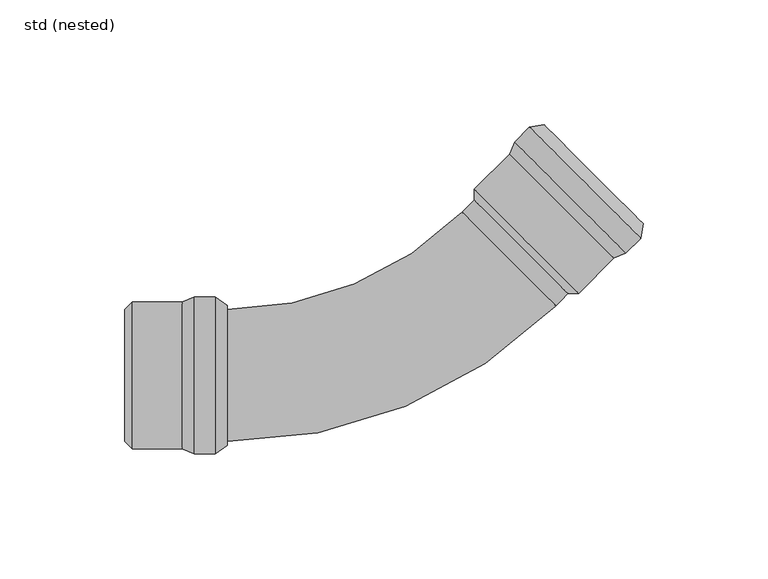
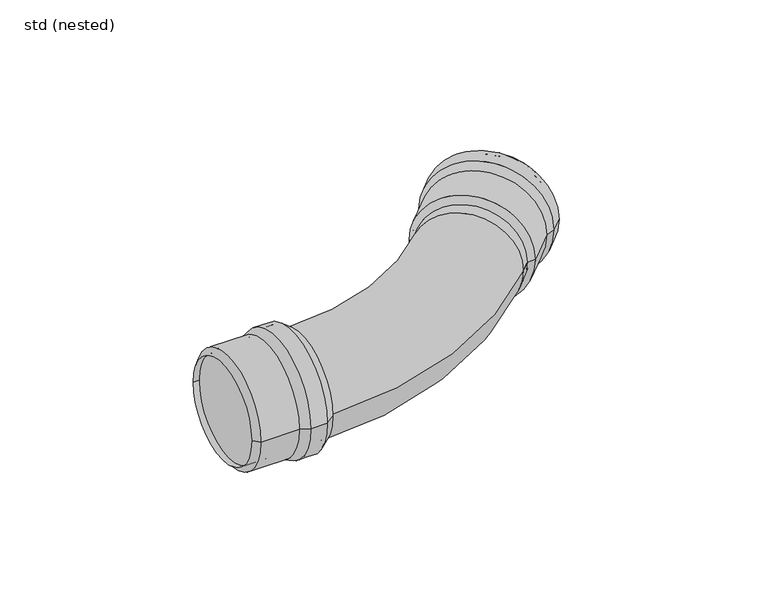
"""IFC4 building model written with IfcOpenShell, lengths in millimetres: pipe fitting geometry, ZZZ_do not use_PIF_ST_UN_GM-X pipe bend_ACO : std (nested)."""

from ifc_helpers import new_model, si_unit, point, frame, origin, place, context, project, spatial, polyline, circle_curve, ellipse_curve, trimmed, source, transform, mapped, element, save
from ifc_brep_helpers import plane_surface, cylinder_surface, revolved_surface, advanced_brep


def std_nested_28cbd34d(model_context):
    return source(origin(), model_context, "Body", "AdvancedBrep", [
        advanced_brep(
        [(-79.2, -31.5, 0.0), (-79.2, 31.5, 0.0), (-70.8, 31.5, 0.0), (-70.8, -31.5, 0.0), (-84.0, -29.5, 0.0), (-84.0, 29.5, 0.0), (-66.0, 28.0, 0.0), (-66.0, -28.0, 0.0), (-104.0, -29.5, 0.0), (-104.0, 29.5, 0.0), (-107.0, -26.5, 0.0), (-107.0, 26.5, 0.0), (-104.0, -26.5, 0.0), (-104.0, 26.5, 0.0), (-83.7, -28.0, 0.0), (-83.7, 28.0, 0.0), (-104.0, 28.0, 0.0), (-104.0, -28.0, 0.0), (-78.9, -30.0, 0.0), (-78.9, 30.0, 0.0), (-71.2888023, -30.0, 0.0), (-71.2888023, 30.0, 0.0), (-66.8837582, -26.7879887, 0.0), (-66.8837582, 26.7879887, 0.0)],
        [
            (0, 1, circle_curve(frame((-79.2, 0.0, 0.0), z_axis=(1.0, 0.0, 0.0), x_axis=(0.0, 1.0, 0.0)), 31.5)),
            (1, 2),
            (2, 3, circle_curve(frame((-70.8, 0.0, 0.0), z_axis=(-1.0, 0.0, 0.0), x_axis=(0.0, 1.0, 0.0)), 31.5)),
            (3, 0),
            (1, 0, circle_curve(frame((-79.2, 0.0, 0.0), z_axis=(1.0, 0.0, 0.0), x_axis=(0.0, 1.0, 0.0)), 31.5)),
            (3, 2, circle_curve(frame((-70.8, 0.0, 0.0), z_axis=(-1.0, 0.0, 0.0), x_axis=(0.0, 1.0, 0.0)), 31.5)),
            (4, 5, circle_curve(frame((-84.0, 0.0, 0.0), z_axis=(1.0, 0.0, 0.0), x_axis=(0.0, 1.0, 0.0)), 29.5)),
            (5, 1),
            (0, 4),
            (5, 4, circle_curve(frame((-84.0, 0.0, 0.0), z_axis=(1.0, 0.0, 0.0), x_axis=(0.0, 1.0, 0.0)), 29.5)),
            (2, 6),
            (6, 7, circle_curve(frame((-66.0, 0.0, 0.0), z_axis=(-1.0, 0.0, 0.0), x_axis=(0.0, 1.0, 0.0)), 28.0)),
            (7, 3),
            (7, 6, circle_curve(frame((-66.0, 0.0, 0.0), z_axis=(-1.0, 0.0, 0.0), x_axis=(0.0, 1.0, 0.0)), 28.0)),
            (8, 9, circle_curve(frame((-104.0, 0.0, 0.0), z_axis=(1.0, 0.0, 0.0), x_axis=(0.0, 1.0, 0.0)), 29.5)),
            (9, 5),
            (4, 8),
            (9, 8, circle_curve(frame((-104.0, 0.0, 0.0), z_axis=(1.0, 0.0, 0.0), x_axis=(0.0, 1.0, 0.0)), 29.5)),
            (10, 11, circle_curve(frame((-107.0, 0.0, 0.0), z_axis=(1.0, 0.0, 0.0), x_axis=(0.0, 1.0, 0.0)), 26.5)),
            (11, 9),
            (8, 10),
            (11, 10, circle_curve(frame((-107.0, 0.0, 0.0), z_axis=(1.0, 0.0, 0.0), x_axis=(0.0, 1.0, 0.0)), 26.5)),
            (12, 13, circle_curve(frame((-104.0, 0.0, 0.0), z_axis=(1.0, 0.0, 0.0), x_axis=(0.0, 1.0, 0.0)), 26.5)),
            (13, 11),
            (10, 12),
            (13, 12, circle_curve(frame((-104.0, 0.0, 0.0), z_axis=(1.0, 0.0, 0.0), x_axis=(0.0, 1.0, 0.0)), 26.5)),
            (14, 15, circle_curve(frame((-83.7, 0.0, 0.0), z_axis=(1.0, 0.0, 0.0), x_axis=(0.0, 1.0, 0.0)), 28.0)),
            (15, 16),
            (16, 17, circle_curve(frame((-104.0, 0.0, 0.0), z_axis=(-1.0, 0.0, 0.0), x_axis=(0.0, 1.0, 0.0)), 28.0)),
            (17, 14),
            (15, 14, circle_curve(frame((-83.7, 0.0, 0.0), z_axis=(1.0, 0.0, 0.0), x_axis=(0.0, 1.0, 0.0)), 28.0)),
            (17, 16, circle_curve(frame((-104.0, 0.0, 0.0), z_axis=(-1.0, 0.0, 0.0), x_axis=(0.0, 1.0, 0.0)), 28.0)),
            (18, 19, circle_curve(frame((-78.9, 0.0, 0.0), z_axis=(1.0, 0.0, 0.0), x_axis=(0.0, 1.0, 0.0)), 30.0)),
            (19, 15),
            (14, 18),
            (19, 18, circle_curve(frame((-78.9, 0.0, 0.0), z_axis=(1.0, 0.0, 0.0), x_axis=(0.0, 1.0, 0.0)), 30.0)),
            (20, 21, circle_curve(frame((-71.2888023, 0.0, 0.0), z_axis=(1.0, 0.0, 0.0), x_axis=(0.0, 1.0, 0.0)), 30.0)),
            (21, 19),
            (18, 20),
            (21, 20, circle_curve(frame((-71.2888023, 0.0, 0.0), z_axis=(1.0, 0.0, 0.0), x_axis=(0.0, 1.0, 0.0)), 30.0)),
            (22, 23, circle_curve(frame((-66.8837582, 0.0, 0.0), z_axis=(1.0, 0.0, 0.0), x_axis=(0.0, 1.0, 0.0)), 26.7879887)),
            (23, 21),
            (20, 22),
            (23, 22, circle_curve(frame((-66.8837582, 0.0, 0.0), z_axis=(1.0, 0.0, 0.0), x_axis=(0.0, 1.0, 0.0)), 26.7879887)),
            (6, 23),
            (22, 7),
            (16, 13),
            (12, 17),
        ],
        [
            cylinder_surface(frame((-69.3555883, 0.0, 0.0), z_axis=(-1.0, 0.0, 0.0), x_axis=(0.0, 1.0, 0.0)), 31.5),
            revolved_surface(polyline([(-79.2, 31.5, 0.0), (-84.0, 29.5, 0.0)]), (-69.3555883, 0.0, 0.0), (-1.0, 0.0, 0.0)),
            revolved_surface(polyline([(-66.0, 28.0, 0.0), (-70.8, 31.5, 0.0)]), (-69.3555883, 0.0, 0.0), (-1.0, 0.0, 0.0)),
            cylinder_surface(frame((-69.3555883, 0.0, 0.0), z_axis=(-1.0, 0.0, 0.0), x_axis=(0.0, 1.0, 0.0)), 29.5),
            revolved_surface(polyline([(-104.0, 29.5, 0.0), (-107.0, 26.5, 0.0)]), (-69.3555883, 0.0, 0.0), (-1.0, 0.0, 0.0)),
            revolved_surface(polyline([(-107.0, 26.5, 0.0), (-104.0, 26.5, 0.0)]), (-69.3555883, 0.0, 0.0), (-1.0, 0.0, 0.0)),
            revolved_surface(polyline([(-104.0, 28.0, 0.0), (-83.7, 28.0, 0.0)]), (-69.3555883, 0.0, 0.0), (-1.0, 0.0, 0.0)),
            revolved_surface(polyline([(-83.7, 28.0, 0.0), (-78.9, 30.0, 0.0)]), (-69.3555883, 0.0, 0.0), (-1.0, 0.0, 0.0)),
            revolved_surface(polyline([(-78.9, 30.0, 0.0), (-71.2888023, 30.0, 0.0)]), (-69.3555883, 0.0, 0.0), (-1.0, 0.0, 0.0)),
            revolved_surface(polyline([(-71.2888023, 30.0, 0.0), (-66.8837582, 26.7879887, 0.0)]), (-69.3555883, 0.0, 0.0), (-1.0, 0.0, 0.0)),
            revolved_surface(polyline([(-66.8837582, 26.7879887, 0.0), (-66.0, 28.0, 0.0)]), (-69.3555883, 0.0, 0.0), (-1.0, 0.0, 0.0)),
            plane_surface(frame((-104.0, 0.0, 0.0), z_axis=(1.0, 0.0, 0.0), x_axis=(0.0, 1.0, 0.0))),
        ],
        [
            (0, [[1, 2, 3, 4]]),
            (0, [[5, -4, 6, -2]]),
            (1, [[7, 8, -1, 9]]),
            (1, [[10, -9, -5, -8]]),
            (2, [[-3, 11, 12, 13]]),
            (2, [[-6, -13, 14, -11]]),
            (3, [[15, 16, -7, 17]]),
            (3, [[18, -17, -10, -16]]),
            (4, [[19, 20, -15, 21]]),
            (4, [[22, -21, -18, -20]]),
            (5, [[23, 24, -19, 25]]),
            (5, [[26, -25, -22, -24]]),
            (6, [[27, 28, 29, 30]]),
            (6, [[31, -30, 32, -28]]),
            (7, [[33, 34, -27, 35]]),
            (7, [[36, -35, -31, -34]]),
            (8, [[37, 38, -33, 39]]),
            (8, [[40, -39, -36, -38]]),
            (9, [[41, 42, -37, 43]]),
            (9, [[44, -43, -40, -42]]),
            (10, [[-12, 45, -41, 46]]),
            (10, [[-14, -46, -44, -45]]),
            (11, [[-29, 47, -23, 48]]),
            (11, [[-32, -48, -26, -47]]),
        ],
    ),
        advanced_brep(
        [(93.5481556, 49.0064546, 0.0), (48.9985452, 93.5522986, 0.0), (54.9379911, 99.4922466, 0.0), (99.4876014, 54.9464026, 0.0), (88.7399132, 47.0263523, 0.0), (47.0188495, 88.7438888, 0.0), (60.8069385, 100.4117335, 0.0), (100.4065921, 60.8154278, 0.0), (74.5983754, 32.8836189, 0.0), (32.8773117, 74.6011553, 0.0), (70.3557347, 32.8834395, 0.0), (32.8774911, 70.3585146, 0.0), (72.4769654, 35.0048495, 0.0), (34.9987217, 72.4799246, 0.0), (87.8913312, 48.2991087, 0.0), (48.2916776, 87.8954144, 0.0), (33.9380167, 73.54054, 0.0), (73.5376704, 33.9442342, 0.0), (92.6995736, 50.2792109, 0.0), (50.2713733, 92.7038242, 0.0), (98.0812756, 55.6613679, 0.0), (55.6530753, 98.0859812, 0.0), (98.9246495, 61.0474751, 0.0), (61.0391111, 98.9298105, 0.0)],
        [
            (0, 1, circle_curve(frame((71.2733504, 71.2793766, 0.0), z_axis=(0.7070768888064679, 0.7071366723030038, 0.0), x_axis=(-0.7071366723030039, 0.707076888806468, 0.0)), 31.5)),
            (1, 2),
            (2, 3, circle_curve(frame((77.2127963, 77.2193246, 0.0), z_axis=(-0.7070768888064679, -0.7071366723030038, 0.0), x_axis=(-0.7071366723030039, 0.707076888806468, 0.0)), 31.5)),
            (3, 0),
            (1, 0, circle_curve(frame((71.2733504, 71.2793766, 0.0), z_axis=(0.7070768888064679, 0.7071366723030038, 0.0), x_axis=(-0.7071366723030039, 0.707076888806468, 0.0)), 31.5)),
            (3, 2, circle_curve(frame((77.2127963, 77.2193246, 0.0), z_axis=(-0.7070768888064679, -0.7071366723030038, 0.0), x_axis=(-0.7071366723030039, 0.707076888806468, 0.0)), 31.5)),
            (4, 5, circle_curve(frame((67.8793813, 67.8851205, 0.0), z_axis=(0.7070768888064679, 0.7071366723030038, 0.0), x_axis=(-0.7071366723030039, 0.707076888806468, 0.0)), 29.5)),
            (5, 1),
            (0, 4),
            (5, 4, circle_curve(frame((67.8793813, 67.8851205, 0.0), z_axis=(0.7070768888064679, 0.7071366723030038, 0.0), x_axis=(-0.7071366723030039, 0.707076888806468, 0.0)), 29.5)),
            (2, 6),
            (6, 7, circle_curve(frame((80.6067653, 80.6135806, 0.0), z_axis=(-0.7070768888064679, -0.7071366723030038, 0.0), x_axis=(-0.7071366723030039, 0.707076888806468, 0.0)), 28.0)),
            (7, 3),
            (7, 6, circle_curve(frame((80.6067653, 80.6135806, 0.0), z_axis=(-0.7070768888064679, -0.7071366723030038, 0.0), x_axis=(-0.7071366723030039, 0.707076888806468, 0.0)), 28.0)),
            (8, 9, circle_curve(frame((53.7378435, 53.7423871, 0.0), z_axis=(0.7070768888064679, 0.7071366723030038, 0.0), x_axis=(-0.7071366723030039, 0.707076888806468, 0.0)), 29.5)),
            (9, 5),
            (4, 8),
            (9, 8, circle_curve(frame((53.7378435, 53.7423871, 0.0), z_axis=(0.7070768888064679, 0.7071366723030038, 0.0), x_axis=(-0.7071366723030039, 0.707076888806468, 0.0)), 29.5)),
            (10, 11, circle_curve(frame((51.6166129, 51.6209771, 0.0), z_axis=(0.7070768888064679, 0.7071366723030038, 0.0), x_axis=(-0.7071366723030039, 0.707076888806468, 0.0)), 26.5)),
            (11, 9),
            (8, 10),
            (11, 10, circle_curve(frame((51.6166129, 51.6209771, 0.0), z_axis=(0.7070768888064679, 0.7071366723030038, 0.0), x_axis=(-0.7071366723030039, 0.707076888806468, 0.0)), 26.5)),
            (12, 13, circle_curve(frame((53.7378435, 53.7423871, 0.0), z_axis=(0.7070768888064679, 0.7071366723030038, 0.0), x_axis=(-0.7071366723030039, 0.707076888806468, 0.0)), 26.5)),
            (13, 11),
            (10, 12),
            (13, 12, circle_curve(frame((53.7378435, 53.7423871, 0.0), z_axis=(0.7070768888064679, 0.7071366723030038, 0.0), x_axis=(-0.7071366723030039, 0.707076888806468, 0.0)), 26.5)),
            (14, 15, circle_curve(frame((68.0915044, 68.0972615, 0.0), z_axis=(0.7070768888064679, 0.7071366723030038, 0.0), x_axis=(-0.7071366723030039, 0.707076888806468, 0.0)), 28.0)),
            (15, 16),
            (16, 17, circle_curve(frame((53.7378435, 53.7423871, 0.0), z_axis=(-0.7070768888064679, -0.7071366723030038, 0.0), x_axis=(-0.7071366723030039, 0.707076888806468, 0.0)), 28.0)),
            (17, 14),
            (15, 14, circle_curve(frame((68.0915044, 68.0972615, 0.0), z_axis=(0.7070768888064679, 0.7071366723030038, 0.0), x_axis=(-0.7071366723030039, 0.707076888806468, 0.0)), 28.0)),
            (17, 16, circle_curve(frame((53.7378435, 53.7423871, 0.0), z_axis=(-0.7070768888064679, -0.7071366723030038, 0.0), x_axis=(-0.7071366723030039, 0.707076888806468, 0.0)), 28.0)),
            (18, 19, circle_curve(frame((71.4854735, 71.4915176, 0.0), z_axis=(0.7070768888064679, 0.7071366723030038, 0.0), x_axis=(-0.7071366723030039, 0.707076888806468, 0.0)), 30.0)),
            (19, 15),
            (14, 18),
            (19, 18, circle_curve(frame((71.4854735, 71.4915176, 0.0), z_axis=(0.7070768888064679, 0.7071366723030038, 0.0), x_axis=(-0.7071366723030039, 0.707076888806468, 0.0)), 30.0)),
            (20, 21, circle_curve(frame((76.8671754, 76.8736746, 0.0), z_axis=(0.7070768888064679, 0.7071366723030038, 0.0), x_axis=(-0.7071366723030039, 0.707076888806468, 0.0)), 30.0)),
            (21, 19),
            (18, 20),
            (21, 20, circle_curve(frame((76.8671754, 76.8736746, 0.0), z_axis=(0.7070768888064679, 0.7071366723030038, 0.0), x_axis=(-0.7071366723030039, 0.707076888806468, 0.0)), 30.0)),
            (22, 23, circle_curve(frame((79.9818803, 79.9886428, 0.0), z_axis=(0.7070768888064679, 0.7071366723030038, 0.0), x_axis=(-0.7071366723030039, 0.707076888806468, 0.0)), 26.7879887)),
            (23, 21),
            (20, 22),
            (23, 22, circle_curve(frame((79.9818803, 79.9886428, 0.0), z_axis=(0.7070768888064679, 0.7071366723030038, 0.0), x_axis=(-0.7071366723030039, 0.707076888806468, 0.0)), 26.7879887)),
            (6, 23),
            (22, 7),
            (16, 13),
            (12, 17),
        ],
        [
            cylinder_surface(frame((78.2341064, 78.2407211, 0.0), z_axis=(-0.707076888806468, -0.7071366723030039, 0.0), x_axis=(-0.7071366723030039, 0.707076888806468, 0.0)), 31.5),
            revolved_surface(polyline([(48.9985452, 93.5522986, 0.0), (47.0188495, 88.7438888, 0.0)]), (78.2341064, 78.2407211, 0.0), (-0.707076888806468, -0.7071366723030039, 0.0)),
            revolved_surface(polyline([(60.8069385, 100.4117335, 0.0), (54.9379911, 99.4922466, 0.0)]), (78.2341064, 78.2407211, 0.0), (-0.707076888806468, -0.7071366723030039, 0.0)),
            cylinder_surface(frame((78.2341064, 78.2407211, 0.0), z_axis=(-0.707076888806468, -0.7071366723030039, 0.0), x_axis=(-0.7071366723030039, 0.707076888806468, 0.0)), 29.5),
            revolved_surface(polyline([(32.8773117, 74.6011553, 0.0), (32.8774911, 70.3585146, 0.0)]), (78.2341064, 78.2407211, 0.0), (-0.707076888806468, -0.7071366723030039, 0.0)),
            revolved_surface(polyline([(32.87749105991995, 70.35851461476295, 0.0), (34.99872173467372, 72.47992464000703, 0.0)]), (78.2341064, 78.2407211, 0.0), (-0.707076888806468, -0.7071366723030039, 0.0)),
            revolved_surface(polyline([(33.93801670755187, 73.54053995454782, 0.0), (48.291677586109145, 87.8954144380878, 0.0)]), (78.2341064, 78.2407211, 0.0), (-0.707076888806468, -0.7071366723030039, 0.0)),
            revolved_surface(polyline([(48.2916776, 87.8954144, 0.0), (50.2713733, 92.7038242, 0.0)]), (78.2341064, 78.2407211, 0.0), (-0.707076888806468, -0.7071366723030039, 0.0)),
            revolved_surface(polyline([(50.27137327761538, 92.7038242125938, 0.0), (55.653075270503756, 98.08598122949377, 0.0)]), (78.2341064, 78.2407211, 0.0), (-0.707076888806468, -0.7071366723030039, 0.0)),
            revolved_surface(polyline([(55.6530753, 98.0859812, 0.0), (61.0391111, 98.9298105, 0.0)]), (78.2341064, 78.2407211, 0.0), (-0.707076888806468, -0.7071366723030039, 0.0)),
            revolved_surface(polyline([(61.0391111, 98.9298105, 0.0), (60.8069385, 100.4117335, 0.0)]), (78.2341064, 78.2407211, 0.0), (-0.707076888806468, -0.7071366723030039, 0.0)),
            plane_surface(frame((53.7378435, 53.7423871, 0.0), z_axis=(0.7070768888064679, 0.7071366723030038, 0.0), x_axis=(-0.7071366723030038, 0.7070768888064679, 0.0))),
        ],
        [
            (0, [[1, 2, 3, 4]]),
            (0, [[5, -4, 6, -2]]),
            (1, [[7, 8, -1, 9]]),
            (1, [[10, -9, -5, -8]]),
            (2, [[-3, 11, 12, 13]]),
            (2, [[-6, -13, 14, -11]]),
            (3, [[15, 16, -7, 17]]),
            (3, [[18, -17, -10, -16]]),
            (4, [[19, 20, -15, 21]]),
            (4, [[22, -21, -18, -20]]),
            (5, [[23, 24, -19, 25]]),
            (5, [[26, -25, -22, -24]]),
            (6, [[27, 28, 29, 30]]),
            (6, [[31, -30, 32, -28]]),
            (7, [[33, 34, -27, 35]]),
            (7, [[36, -35, -31, -34]]),
            (8, [[37, 38, -33, 39]]),
            (8, [[40, -39, -36, -38]]),
            (9, [[41, 42, -37, 43]]),
            (9, [[44, -43, -40, -42]]),
            (10, [[-12, 45, -41, 46]]),
            (10, [[-14, -46, -44, -45]]),
            (11, [[-29, 47, -23, 48]]),
            (11, [[-32, -48, -26, -47]]),
        ],
    ),
        advanced_brep(
        [(27.9279528, 65.4085579, 0.0), (-66.0, 26.5, 0.0), (-66.0, -26.5, 0.0), (65.4061965, 27.9334828, 0.0), (46.6670747, 46.6710204, 26.5), (46.6670747, 46.6710204, -26.5), (-104.0, -26.5, 0.0), (-104.0, 26.5, 0.0), (72.4769654, 35.0048495, 0.0), (34.9987217, 72.4799246, 0.0)],
        [
            (0, 1, circle_curve(frame((-66.0, 159.3285698, 0.0), z_axis=(0.0, 0.0, -1.0), x_axis=(0.0, -1.0, 0.0)), 132.8285698)),
            (1, 2, circle_curve(frame((-66.0, 0.0, 0.0), z_axis=(1.0, 0.0, 0.0), x_axis=(0.0, 1.0, 0.0)), 26.5)),
            (2, 3, circle_curve(frame((-66.0, 159.3285698, 0.0), z_axis=(0.0, 0.0, 1.0), x_axis=(0.0, -1.0, 0.0)), 185.8285698)),
            (3, 4, circle_curve(frame((46.6670747, 46.6710204, 0.0), z_axis=(-0.7070768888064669, -0.7071366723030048, 0.0), x_axis=(-0.7071366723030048, 0.7070768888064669, 0.0)), 26.5)),
            (4, 0, circle_curve(frame((46.6670747, 46.6710204, 0.0), z_axis=(-0.7070768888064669, -0.7071366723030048, 0.0), x_axis=(-0.7071366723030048, 0.7070768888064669, 0.0)), 26.5)),
            (0, 5, circle_curve(frame((46.6670747, 46.6710204, 0.0), z_axis=(-0.7070768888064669, -0.7071366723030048, 0.0), x_axis=(-0.7071366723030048, 0.7070768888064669, 0.0)), 26.5)),
            (5, 3, circle_curve(frame((46.6670747, 46.6710204, 0.0), z_axis=(-0.7070768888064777, -0.707136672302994, 0.0), x_axis=(-0.707136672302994, 0.7070768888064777, 0.0)), 26.5)),
            (2, 1, circle_curve(frame((-66.0, 0.0, 0.0), z_axis=(1.0, 0.0, 0.0), x_axis=(0.0, 1.0, 0.0)), 26.5)),
            (6, 7, circle_curve(frame((-104.0, 0.0, 0.0), z_axis=(-1.0, 0.0, 0.0), x_axis=(0.0, 1.0, 0.0)), 26.5)),
            (7, 6, circle_curve(frame((-104.0, 0.0, 0.0), z_axis=(-1.0, 0.0, 0.0), x_axis=(0.0, 1.0, 0.0)), 26.5)),
            (7, 1),
            (2, 6),
            (8, 9, circle_curve(frame((53.7378435, 53.7423871, 0.0), z_axis=(0.7070768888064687, 0.7071366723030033, 0.0), x_axis=(-0.7071366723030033, 0.7070768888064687, 0.0)), 26.5)),
            (9, 8, circle_curve(frame((53.7378435, 53.7423871, 0.0), z_axis=(0.7070768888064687, 0.7071366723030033, 0.0), x_axis=(-0.7071366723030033, 0.7070768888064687, 0.0)), 26.5)),
            (9, 0),
            (3, 8),
        ],
        [
            revolved_surface(trimmed(ellipse_curve(frame((-66.0, 0.0, 0.0), z_axis=(-1.0, 0.0, 0.0), x_axis=(0.0, 1.0, 0.0)), 26.5, 26.5), [point((-66.0, -26.5, 0.0))], [point((-66.0, 26.5, 0.0))], True, "CARTESIAN"), (-66.0, 159.3285698, 0.0), (0.0, 0.0, 1.0)),
            revolved_surface(trimmed(ellipse_curve(frame((-66.0, 0.0, 0.0), z_axis=(-1.0, 0.0, 0.0), x_axis=(0.0, 1.0, 0.0)), 26.5, 26.5), [point((-66.0, 26.5, 0.0))], [point((-66.0, -26.5, 0.0))], True, "CARTESIAN"), (-66.0, 159.3285698, 0.0), (0.0, 0.0, 1.0)),
            plane_surface(frame((-104.0, 26.5, 0.0), z_axis=(-1.0, 0.0, 0.0), x_axis=(0.0, 0.0, -1.0))),
            cylinder_surface(frame((-104.0, 0.0, 0.0), z_axis=(1.0, 0.0, 0.0), x_axis=(0.0, 1.0, 0.0)), 26.5),
            plane_surface(frame((53.7378435, 53.7423871, 0.0), z_axis=(0.7070768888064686, 0.7071366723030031, 0.0), x_axis=(0.0, 0.0, 1.0))),
            cylinder_surface(frame((46.6670747, 46.6710204, 0.0), z_axis=(-0.7070768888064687, -0.7071366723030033, 0.0), x_axis=(-0.7071366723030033, 0.7070768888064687, 0.0)), 26.5),
        ],
        [
            (0, [[1, 2, 3, 4, 5]]),
            (1, [[-1, 6, 7, -3, 8]]),
            (2, [[9, 10]]),
            (3, [[-10, 11, -8, 12]]),
            (3, [[-9, -12, -2, -11]]),
            (4, [[13, 14]]),
            (5, [[-14, 15, -5, -4, 16]]),
            (5, [[-13, -16, -7, -6, -15]]),
        ],
    ),
    ])


if __name__ == "__main__":
    model = new_model("IFC4")
    model_context = context("Model", 3, world=origin())
    ifc_project = project(units=[si_unit("LENGTHUNIT", "METRE", prefix="MILLI")], contexts=[model_context])
    site = spatial("IfcSite", under=ifc_project)
    building = spatial("IfcBuilding", under=site)
    placement = place(None, origin())
    std_nested_shape = std_nested_28cbd34d(model_context)
    element("IfcPipeFitting", 1, ObjectType="ZZZ_do not use_PIF_ST_UN_GM-X pipe bend_ACO : std (nested)", at=placement, inside=building, context=model_context, shape_type="MappedRepresentation", body=[
        mapped(std_nested_shape, transform((0.0, 0.0, 0.0), x_axis=(1.0, 0.0, 0.0), y_axis=(0.0, 1.0, 0.0), z_axis=(0.0, 0.0, 1.0))),
    ])
    save(model, "model.ifc")
